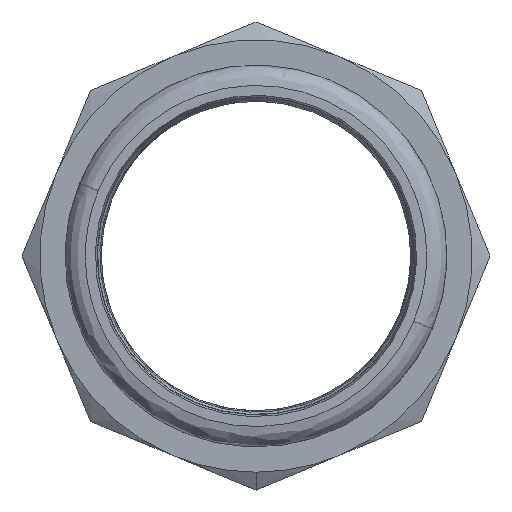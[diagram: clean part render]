
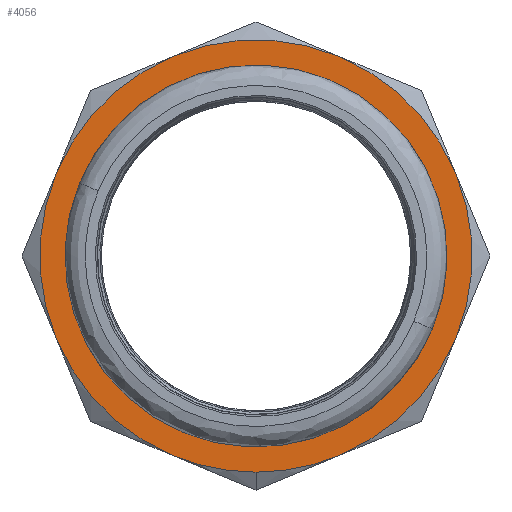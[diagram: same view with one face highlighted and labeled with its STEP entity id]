
A CAD part, left-side view. The second image highlights one B-rep face of the part: STEP entity #4056.
In plain terms, the highlighted planar face has unit normal (-1, 0, 0) as drawn and (0, 1, 0) by its records, which use the part's own axes.
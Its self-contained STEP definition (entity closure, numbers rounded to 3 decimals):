
#6 = EDGE_CURVE ( 'NONE', #3287, #5147, #2444, .T. ) ;
#52 = ORIENTED_EDGE ( 'NONE', *, *, #5100, .T. ) ;
#89 = AXIS2_PLACEMENT_3D ( 'NONE', #3155, #5200, #218 ) ;
#218 = DIRECTION ( 'NONE',  ( 0., 0., -1. ) ) ;
#229 = CARTESIAN_POINT ( 'NONE',  ( 0., 23., 0. ) ) ;
#299 = CARTESIAN_POINT ( 'NONE',  ( 0., 23., 0. ) ) ;
#313 = DIRECTION ( 'NONE',  ( 0., 0., -1. ) ) ;
#326 = CARTESIAN_POINT ( 'NONE',  ( 0., 23., 0. ) ) ;
#494 = CARTESIAN_POINT ( 'NONE',  ( 0., 23., -29.15 ) ) ;
#504 = VERTEX_POINT ( 'NONE', #510 ) ;
#510 = CARTESIAN_POINT ( 'NONE',  ( 14.159, 23., 34.184 ) ) ;
#540 = VERTEX_POINT ( 'NONE', #3455 ) ;
#548 = CIRCLE ( 'NONE', #844, 29.15 ) ;
#653 = CARTESIAN_POINT ( 'NONE',  ( 0., 23., 0. ) ) ;
#673 = AXIS2_PLACEMENT_3D ( 'NONE', #326, #3269, #1999 ) ;
#723 = DIRECTION ( 'NONE',  ( 0., 1., 0. ) ) ;
#732 = VERTEX_POINT ( 'NONE', #2146 ) ;
#744 = DIRECTION ( 'NONE',  ( 0., 0., -1. ) ) ;
#745 = AXIS2_PLACEMENT_3D ( 'NONE', #4114, #1615, #3226 ) ;
#784 = ORIENTED_EDGE ( 'NONE', *, *, #1868, .T. ) ;
#830 = EDGE_CURVE ( 'NONE', #3195, #3287, #3311, .T. ) ;
#844 = AXIS2_PLACEMENT_3D ( 'NONE', #2632, #3013, #1762 ) ;
#916 = AXIS2_PLACEMENT_3D ( 'NONE', #4801, #2721, #3158 ) ;
#942 = ORIENTED_EDGE ( 'NONE', *, *, #5226, .T. ) ;
#954 = DIRECTION ( 'NONE',  ( 0., 0., 1. ) ) ;
#1026 = ORIENTED_EDGE ( 'NONE', *, *, #5331, .T. ) ;
#1050 = VERTEX_POINT ( 'NONE', #1527 ) ;
#1199 = CARTESIAN_POINT ( 'NONE',  ( -14.159, 23., -34.184 ) ) ;
#1312 = DIRECTION ( 'NONE',  ( 0., 0., -1. ) ) ;
#1496 = CARTESIAN_POINT ( 'NONE',  ( 34.184, 23., 14.159 ) ) ;
#1512 = ORIENTED_EDGE ( 'NONE', *, *, #4770, .T. ) ;
#1527 = CARTESIAN_POINT ( 'NONE',  ( -34.184, 23., -14.159 ) ) ;
#1561 = CARTESIAN_POINT ( 'NONE',  ( 34.184, 23., -14.159 ) ) ;
#1569 = ORIENTED_EDGE ( 'NONE', *, *, #3282, .T. ) ;
#1615 = DIRECTION ( 'NONE',  ( 0., 1., 0. ) ) ;
#1678 = PLANE ( 'NONE',  #3850 ) ;
#1721 = CARTESIAN_POINT ( 'NONE',  ( 0., 23., 0. ) ) ;
#1762 = DIRECTION ( 'NONE',  ( 0., 0., 1. ) ) ;
#1868 = EDGE_CURVE ( 'NONE', #540, #3789, #2048, .T. ) ;
#1932 = DIRECTION ( 'NONE',  ( 0., 1., 0. ) ) ;
#1990 = DIRECTION ( 'NONE',  ( 0., 0., -1. ) ) ;
#1999 = DIRECTION ( 'NONE',  ( 0., 0., 1. ) ) ;
#2048 = CIRCLE ( 'NONE', #673, 29.15 ) ;
#2120 = CARTESIAN_POINT ( 'NONE',  ( 0., 23., -37. ) ) ;
#2146 = CARTESIAN_POINT ( 'NONE',  ( -14.159, 23., 34.184 ) ) ;
#2213 = AXIS2_PLACEMENT_3D ( 'NONE', #3530, #3508, #4727 ) ;
#2297 = AXIS2_PLACEMENT_3D ( 'NONE', #653, #4874, #4857 ) ;
#2301 = VERTEX_POINT ( 'NONE', #1199 ) ;
#2444 = CIRCLE ( 'NONE', #5049, 37. ) ;
#2450 = CIRCLE ( 'NONE', #2524, 37. ) ;
#2524 = AXIS2_PLACEMENT_3D ( 'NONE', #2914, #3330, #313 ) ;
#2557 = DIRECTION ( 'NONE',  ( 0., 1., 0. ) ) ;
#2632 = CARTESIAN_POINT ( 'NONE',  ( 0., 23., 0. ) ) ;
#2673 = CIRCLE ( 'NONE', #2297, 37. ) ;
#2721 = DIRECTION ( 'NONE',  ( 0., 1., 0. ) ) ;
#2878 = CIRCLE ( 'NONE', #4790, 37. ) ;
#2914 = CARTESIAN_POINT ( 'NONE',  ( 0., 23., 0. ) ) ;
#2979 = CIRCLE ( 'NONE', #4098, 37. ) ;
#3013 = DIRECTION ( 'NONE',  ( 0., -1., 0. ) ) ;
#3019 = CARTESIAN_POINT ( 'NONE',  ( 0., 23., 0. ) ) ;
#3030 = EDGE_CURVE ( 'NONE', #2301, #1050, #2979, .T. ) ;
#3043 = FACE_OUTER_BOUND ( 'NONE', #4514, .T. ) ;
#3155 = CARTESIAN_POINT ( 'NONE',  ( 0., 23., 0. ) ) ;
#3158 = DIRECTION ( 'NONE',  ( 0., 0., -1. ) ) ;
#3195 = VERTEX_POINT ( 'NONE', #1561 ) ;
#3203 = VERTEX_POINT ( 'NONE', #5219 ) ;
#3226 = DIRECTION ( 'NONE',  ( 0., 0., -1. ) ) ;
#3269 = DIRECTION ( 'NONE',  ( 0., -1., 0. ) ) ;
#3275 = VERTEX_POINT ( 'NONE', #1496 ) ;
#3282 = EDGE_CURVE ( 'NONE', #732, #504, #2673, .T. ) ;
#3287 = VERTEX_POINT ( 'NONE', #4441 ) ;
#3311 = CIRCLE ( 'NONE', #2213, 37. ) ;
#3330 = DIRECTION ( 'NONE',  ( 0., 1., 0. ) ) ;
#3361 = ORIENTED_EDGE ( 'NONE', *, *, #830, .T. ) ;
#3398 = ORIENTED_EDGE ( 'NONE', *, *, #3596, .T. ) ;
#3452 = ORIENTED_EDGE ( 'NONE', *, *, #3030, .T. ) ;
#3455 = CARTESIAN_POINT ( 'NONE',  ( 0., 23., 29.15 ) ) ;
#3508 = DIRECTION ( 'NONE',  ( 0., 1., 0. ) ) ;
#3529 = EDGE_LOOP ( 'NONE', ( #784, #942 ) ) ;
#3530 = CARTESIAN_POINT ( 'NONE',  ( 0., 23., 0. ) ) ;
#3560 = CIRCLE ( 'NONE', #916, 37. ) ;
#3596 = EDGE_CURVE ( 'NONE', #1050, #3203, #2878, .T. ) ;
#3789 = VERTEX_POINT ( 'NONE', #494 ) ;
#3850 = AXIS2_PLACEMENT_3D ( 'NONE', #3019, #5094, #954 ) ;
#4056 = ADVANCED_FACE ( 'NONE', ( #3043, #4155 ), #1678, .T. ) ;
#4098 = AXIS2_PLACEMENT_3D ( 'NONE', #299, #723, #1990 ) ;
#4114 = CARTESIAN_POINT ( 'NONE',  ( 0., 23., 0. ) ) ;
#4155 = FACE_BOUND ( 'NONE', #3529, .T. ) ;
#4441 = CARTESIAN_POINT ( 'NONE',  ( 14.159, 23., -34.184 ) ) ;
#4514 = EDGE_LOOP ( 'NONE', ( #3398, #52, #1569, #1512, #1026, #3361, #5141, #4757, #3452 ) ) ;
#4727 = DIRECTION ( 'NONE',  ( 0., 0., -1. ) ) ;
#4757 = ORIENTED_EDGE ( 'NONE', *, *, #4956, .T. ) ;
#4770 = EDGE_CURVE ( 'NONE', #504, #3275, #4865, .T. ) ;
#4790 = AXIS2_PLACEMENT_3D ( 'NONE', #1721, #2557, #1312 ) ;
#4801 = CARTESIAN_POINT ( 'NONE',  ( 0., 23., 0. ) ) ;
#4857 = DIRECTION ( 'NONE',  ( 0., 0., -1. ) ) ;
#4865 = CIRCLE ( 'NONE', #745, 37. ) ;
#4874 = DIRECTION ( 'NONE',  ( 0., 1., 0. ) ) ;
#4956 = EDGE_CURVE ( 'NONE', #5147, #2301, #3560, .T. ) ;
#5049 = AXIS2_PLACEMENT_3D ( 'NONE', #229, #1932, #744 ) ;
#5094 = DIRECTION ( 'NONE',  ( 0., 1., 0. ) ) ;
#5100 = EDGE_CURVE ( 'NONE', #3203, #732, #2450, .T. ) ;
#5141 = ORIENTED_EDGE ( 'NONE', *, *, #6, .T. ) ;
#5147 = VERTEX_POINT ( 'NONE', #2120 ) ;
#5200 = DIRECTION ( 'NONE',  ( 0., 1., 0. ) ) ;
#5219 = CARTESIAN_POINT ( 'NONE',  ( -34.184, 23., 14.159 ) ) ;
#5226 = EDGE_CURVE ( 'NONE', #3789, #540, #548, .T. ) ;
#5251 = CIRCLE ( 'NONE', #89, 37. ) ;
#5331 = EDGE_CURVE ( 'NONE', #3275, #3195, #5251, .T. ) ;
